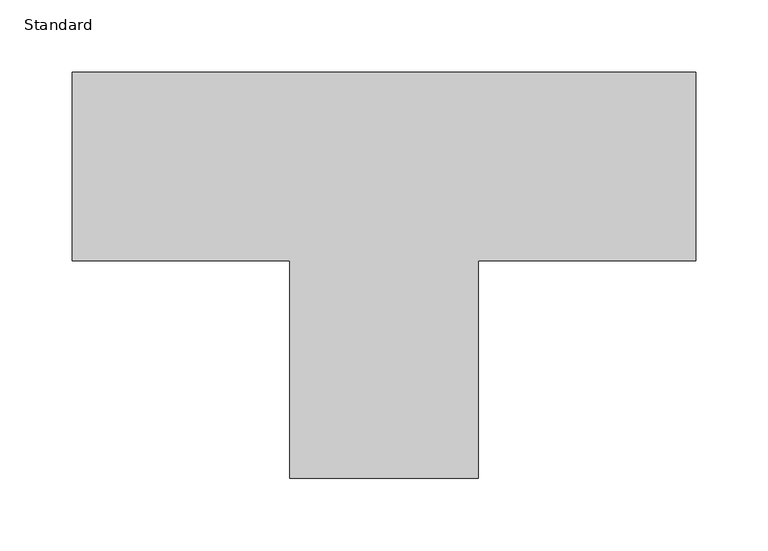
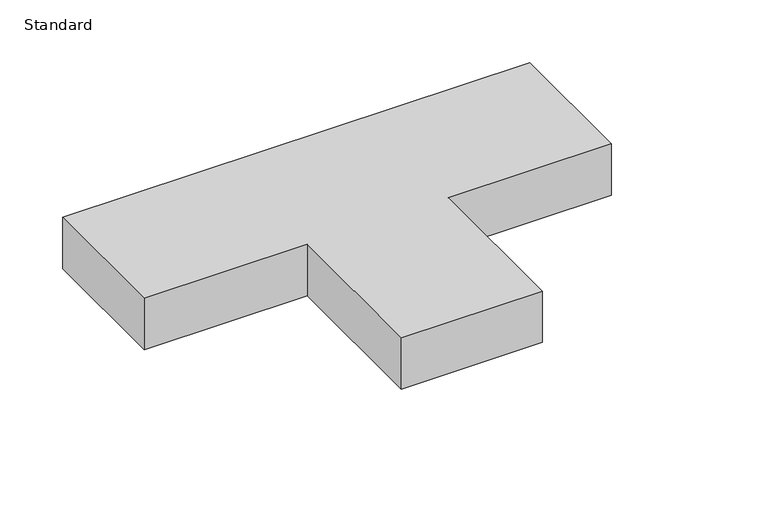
"""IFC4 building model written with IfcOpenShell, lengths in millimetres: duct fitting geometry, Té de réduction rectangulaire - DTL : Standard."""

import ifcopenshell
import ifcopenshell.guid

model = None  # the IFC model being written
_history = None  # IfcOwnerHistory: only IFC2X3 demands one
_inside = {}  # id of a spatial element -> (the spatial element, [elements in it])
_under = {}  # id of a project, library or spatial element -> (it, [spatial elements below it])
_declared = {}  # id of a project -> (the project, [libraries it declares])
_typed = {}  # id of a type object -> (the type object, [elements of that type])
_made_of = {}  # id of a material, layer set ... -> (it, [elements and type objects made of it])


def new_model(schema):
    """Start an empty IFC model of exactly this schema.

    Asked for "IFC4X3", IfcOpenShell would pick the latest addendum, in which some entities
    have other attributes; the version numbers below select the first issue.
    IFC2X3 requires an IfcOwnerHistory on every rooted entity: one is made here for all.
    """
    global model, _history
    if schema == "IFC4X3":
        model = ifcopenshell.file(schema_version=(4, 3, 0, 0))
    else:
        model = ifcopenshell.file(schema=schema)
    _inside.clear()
    _under.clear()
    _declared.clear()
    _typed.clear()
    _made_of.clear()
    _history = None
    if model.schema == "IFC2X3":
        org = make("IfcOrganization", Name="unknown")
        user = make(
            "IfcPersonAndOrganization",
            ThePerson=make("IfcPerson", FamilyName="unknown"),
            TheOrganization=org,
        )
        app = make(
            "IfcApplication",
            ApplicationDeveloper=org,
            Version="unknown",
            ApplicationFullName="unknown",
            ApplicationIdentifier="unknown",
        )
        _history = make(
            "IfcOwnerHistory",
            OwningUser=user,
            OwningApplication=app,
            ChangeAction="ADDED",
            CreationDate=0,
        )
    return model


def make(cls, **values):
    """One entity of the class cls with the attributes given. An attribute that is None is left unset."""
    return model.create_entity(
        cls, **{name: value for name, value in values.items() if value is not None}
    )


def rooted(cls, **values):
    """An entity with a GlobalId (a new one), such as an element, a storey or a relation."""
    return make(cls, GlobalId=ifcopenshell.guid.new(), OwnerHistory=_history, **values)


def si_unit(unit_type, name, prefix=None):
    """IfcSIUnit, for example si_unit("LENGTHUNIT", "METRE", prefix="MILLI")."""
    return make("IfcSIUnit", UnitType=unit_type, Prefix=prefix, Name=name)


def assignment(units):
    """IfcUnitAssignment: the units of a project."""
    return None if units is None else make("IfcUnitAssignment", Units=units)


def point(xyz):
    """IfcCartesianPoint."""
    return None if xyz is None else make("IfcCartesianPoint", Coordinates=xyz)


def direction(xyz):
    """IfcDirection."""
    return None if xyz is None else make("IfcDirection", DirectionRatios=xyz)


def frame(location, z_axis=None, x_axis=None):
    """IfcAxis2Placement3D, a coordinate frame: its origin and axes. An axis left out is left unset."""
    return make(
        "IfcAxis2Placement3D",
        Location=point(location),
        Axis=direction(z_axis),
        RefDirection=direction(x_axis),
    )


def origin():
    """The frame at (0, 0, 0) with its axes left unset."""
    return frame((0.0, 0.0, 0.0))


def place(relative_to, where):
    """IfcLocalPlacement: puts the frame where relative to a parent placement (None: the world)."""
    return make(
        "IfcLocalPlacement", PlacementRelTo=relative_to, RelativePlacement=where
    )


def context(
    kind, dimensions, precision=None, world=None, true_north=None, identifier=None
):
    """IfcGeometricRepresentationContext, for example the 3D "Model" context."""
    return make(
        "IfcGeometricRepresentationContext",
        ContextIdentifier=identifier,
        ContextType=kind,
        CoordinateSpaceDimension=dimensions,
        Precision=precision,
        WorldCoordinateSystem=world,
        TrueNorth=true_north,
    )


def project(units=None, contexts=None):
    """IfcProject with its units and contexts."""
    return rooted(
        "IfcProject",
        Name="project",
        RepresentationContexts=contexts,
        UnitsInContext=assignment(units),
    )


def spatial(cls, under=None, at=None, **own):
    """A site, building, storey or space (cls), placed at a placement, below another one or the project."""
    s = rooted(cls, ObjectPlacement=at, **own)
    if under is not None:
        _under.setdefault(under.id(), (under, []))[1].append(s)
    return s


def polyline(points):
    """IfcPolyline through the points."""
    return make("IfcPolyline", Points=[point(p) for p in points])


def outline(outer, holes=None, kind="AREA"):
    """IfcArbitraryClosedProfileDef: a profile drawn as a closed curve; with holes, ...WithVoids."""
    if holes is None:
        return make("IfcArbitraryClosedProfileDef", ProfileType=kind, OuterCurve=outer)
    return make(
        "IfcArbitraryProfileDefWithVoids",
        ProfileType=kind,
        OuterCurve=outer,
        InnerCurves=holes,
    )


def extrude(swept, where, along, depth):
    """IfcExtrudedAreaSolid: the profile swept, set in the frame where, extruded along a direction by depth."""
    return make(
        "IfcExtrudedAreaSolid",
        SweptArea=swept,
        Position=where,
        ExtrudedDirection=direction(along),
        Depth=depth,
    )


def shape(context_of_items, identifier, shape_type, items):
    """IfcShapeRepresentation: the items that make up one representation, for example the "Body"."""
    return make(
        "IfcShapeRepresentation",
        ContextOfItems=context_of_items,
        RepresentationIdentifier=identifier,
        RepresentationType=shape_type,
        Items=items,
    )


def source(mapping_origin, context_of_items, identifier, shape_type, items):
    """IfcRepresentationMap: a shape defined once, which mapped items show again and again."""
    return make(
        "IfcRepresentationMap",
        MappingOrigin=mapping_origin,
        MappedRepresentation=shape(context_of_items, identifier, shape_type, items),
    )


def transform(
    local_origin,
    x_axis=None,
    y_axis=None,
    z_axis=None,
    scale=None,
    scale2=None,
    scale3=None,
    uniform=True,
):
    """IfcCartesianTransformationOperator3D, or its non-uniform kind. x_axis, y_axis, z_axis: its Axis1, 2, 3."""
    if uniform:
        return make(
            "IfcCartesianTransformationOperator3D",
            Axis1=direction(x_axis),
            Axis2=direction(y_axis),
            LocalOrigin=point(local_origin),
            Scale=scale,
            Axis3=direction(z_axis),
        )
    return make(
        "IfcCartesianTransformationOperator3DnonUniform",
        Axis1=direction(x_axis),
        Axis2=direction(y_axis),
        LocalOrigin=point(local_origin),
        Scale=scale,
        Axis3=direction(z_axis),
        Scale2=scale2,
        Scale3=scale3,
    )


def mapped(mapping_source, mapping_target):
    """IfcMappedItem: shows the shape of a source again, moved by a transform."""
    return make(
        "IfcMappedItem", MappingSource=mapping_source, MappingTarget=mapping_target
    )


def made_of(thing, what):
    """Note that an element or type object is made of a material, layer set ...; save() writes the relation."""
    if what is not None:
        _made_of.setdefault(what.id(), (what, []))[1].append(thing)
    return thing


def element(
    cls,
    number,
    at=None,
    inside=None,
    cuts=None,
    type_object=None,
    material=None,
    context=None,
    identifier="Body",
    shape_type=None,
    held_by="IfcProductDefinitionShape",
    body=None,
    shapes=None,
    **own,
):
    """One element of the class cls, such as IfcWall. Its Tag is "e" and its number.

    at: its placement. inside: the storey or other place that contains it. cuts: it is an
    opening in that element (IfcRelVoidsElement). A single representation is given by context,
    identifier, shape_type and body (its items); several are given by shapes. held_by: the class
    of the entity that holds the representations. save() writes the other relations.
    """
    e = rooted(cls, Tag="e%d" % number, ObjectPlacement=at, **own)
    if body is not None:
        shapes = [shape(context, identifier, shape_type, body)]
    if shapes is not None:
        e.Representation = make(held_by, Representations=shapes)
    if inside is not None:
        _inside.setdefault(inside.id(), (inside, []))[1].append(e)
    if cuts is not None:
        rooted(
            "IfcRelVoidsElement", RelatingBuildingElement=cuts, RelatedOpeningElement=e
        )
    if type_object is not None:
        _typed.setdefault(type_object.id(), (type_object, []))[1].append(e)
    return made_of(e, material)


def aggregate(whole, parts):
    """IfcRelAggregates: a whole, such as a stair, and the parts it consists of."""
    return rooted("IfcRelAggregates", RelatingObject=whole, RelatedObjects=parts)


def save(model, path):
    """Write the relations noted so far, then the file.

    IfcRelAggregates (storeys below a building ...), IfcRelContainedInSpatialStructure (elements
    in a storey), IfcRelDefinesByType, IfcRelAssociatesMaterial and IfcRelDeclares: one each for
    every whole, place, type object, material and project.
    """
    for whole, parts in _under.values():
        aggregate(whole, parts)
    for where, things in _inside.values():
        rooted(
            "IfcRelContainedInSpatialStructure",
            RelatedElements=things,
            RelatingStructure=where,
        )
    for kind, things in _typed.values():
        rooted("IfcRelDefinesByType", RelatedObjects=things, RelatingType=kind)
    for what, things in _made_of.values():
        rooted("IfcRelAssociatesMaterial", RelatedObjects=things, RelatingMaterial=what)
    for by, libraries in _declared.values():
        rooted("IfcRelDeclares", RelatingContext=by, RelatedDefinitions=libraries)
    model.write(path)


def standard_e141fede(model_context):
    return source(origin(), model_context, "Body", "SweptSolid", [
        extrude(outline(polyline([(-215.0, -65.0), (-215.0, 65.0), (215.0, 65.0), (215.0, -65.0), (65.0, -65.0), (65.0, -215.0), (-65.0, -215.0), (-65.0, -65.0), (-215.0, -65.0)])), frame((0.0, 0.0, -25.0), z_axis=(0.0, 0.0, 1.0), x_axis=(1.0, 0.0, 0.0)), (0.0, 0.0, 1.0), 50.0),
    ])


if __name__ == "__main__":
    model = new_model("IFC4")
    model_context = context("Model", 3, world=origin())
    ifc_project = project(units=[si_unit("LENGTHUNIT", "METRE", prefix="MILLI")], contexts=[model_context])
    site = spatial("IfcSite", under=ifc_project)
    building = spatial("IfcBuilding", under=site)
    placement = place(None, origin())
    standard_shape = standard_e141fede(model_context)
    element("IfcDuctFitting", 1, ObjectType="Té de réduction rectangulaire - DTL : Standard", at=placement, inside=building, context=model_context, shape_type="MappedRepresentation", body=[
        mapped(standard_shape, transform((0.0, 0.0, 0.0), x_axis=(1.0, 0.0, 0.0), y_axis=(0.0, 1.0, 0.0), z_axis=(0.0, 0.0, 1.0))),
    ])
    save(model, "model.ifc")
